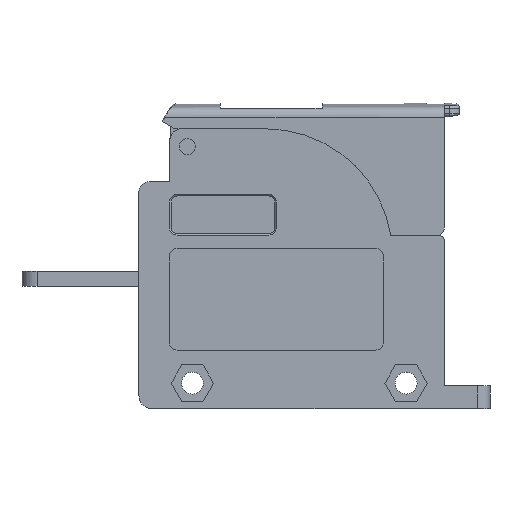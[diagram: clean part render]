
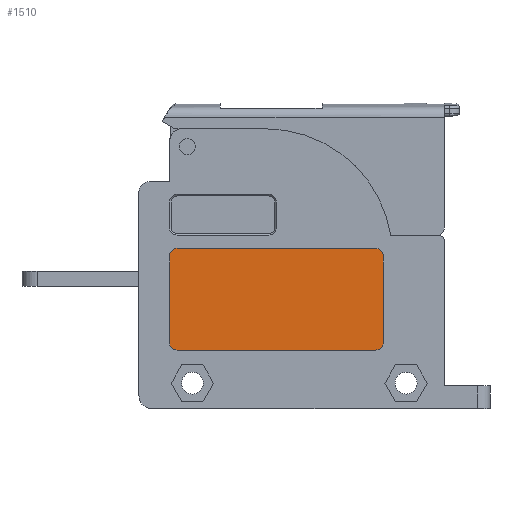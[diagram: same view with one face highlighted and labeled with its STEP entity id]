
A CAD part, left-side view. The second image highlights one B-rep face of the part: STEP entity #1510.
In plain terms, the highlighted planar face has unit normal (-1, 0, 0).
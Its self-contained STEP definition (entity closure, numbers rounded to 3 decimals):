
#170=PLANE('',#4695);
#326=FACE_OUTER_BOUND('',#1861,.T.);
#586=LINE('',#6388,#1063);
#587=LINE('',#6393,#1064);
#588=LINE('',#6397,#1065);
#589=LINE('',#6401,#1066);
#1063=VECTOR('',#5140,1.);
#1064=VECTOR('',#5143,1.);
#1065=VECTOR('',#5146,1.);
#1066=VECTOR('',#5149,1.);
#1510=ADVANCED_FACE('',(#326),#170,.T.);
#1861=EDGE_LOOP('',(#2199,#2200,#2201,#2202,#2203,#2204,#2205,#2206));
#2199=ORIENTED_EDGE('',*,*,#3949,.T.);
#2200=ORIENTED_EDGE('',*,*,#3950,.T.);
#2201=ORIENTED_EDGE('',*,*,#3951,.T.);
#2202=ORIENTED_EDGE('',*,*,#3952,.T.);
#2203=ORIENTED_EDGE('',*,*,#3953,.F.);
#2204=ORIENTED_EDGE('',*,*,#3954,.T.);
#2205=ORIENTED_EDGE('',*,*,#3955,.F.);
#2206=ORIENTED_EDGE('',*,*,#3956,.T.);
#3498=VERTEX_POINT('',#6389);
#3499=VERTEX_POINT('',#6390);
#3500=VERTEX_POINT('',#6392);
#3501=VERTEX_POINT('',#6394);
#3502=VERTEX_POINT('',#6396);
#3503=VERTEX_POINT('',#6398);
#3504=VERTEX_POINT('',#6400);
#3505=VERTEX_POINT('',#6402);
#3949=EDGE_CURVE('',#3498,#3499,#586,.T.);
#3950=EDGE_CURVE('',#3499,#3500,#4549,.T.);
#3951=EDGE_CURVE('',#3500,#3501,#587,.T.);
#3952=EDGE_CURVE('',#3501,#3502,#4550,.T.);
#3953=EDGE_CURVE('',#3503,#3502,#588,.T.);
#3954=EDGE_CURVE('',#3503,#3504,#4551,.T.);
#3955=EDGE_CURVE('',#3505,#3504,#589,.T.);
#3956=EDGE_CURVE('',#3505,#3498,#4552,.T.);
#4549=CIRCLE('',#4691,1.5);
#4550=CIRCLE('',#4692,1.5);
#4551=CIRCLE('',#4693,1.5);
#4552=CIRCLE('',#4694,1.5);
#4691=AXIS2_PLACEMENT_3D('',#6391,#5141,#5142);
#4692=AXIS2_PLACEMENT_3D('',#6395,#5144,#5145);
#4693=AXIS2_PLACEMENT_3D('',#6399,#5147,#5148);
#4694=AXIS2_PLACEMENT_3D('',#6403,#5150,#5151);
#4695=AXIS2_PLACEMENT_3D('',#6404,#5152,#5153);
#5140=DIRECTION('',(0.,1.,0.));
#5141=DIRECTION('',(-1.,0.,0.));
#5142=DIRECTION('',(0.,0.,1.));
#5143=DIRECTION('',(0.,0.,-1.));
#5144=DIRECTION('',(-1.,0.,0.));
#5145=DIRECTION('',(0.,0.,1.));
#5146=DIRECTION('',(0.,1.,0.));
#5147=DIRECTION('',(-1.,0.,0.));
#5148=DIRECTION('',(0.,0.,1.));
#5149=DIRECTION('',(0.,0.,-1.));
#5150=DIRECTION('',(-1.,0.,0.));
#5151=DIRECTION('',(0.,0.,1.));
#5152=DIRECTION('',(-1.,0.,0.));
#5153=DIRECTION('',(0.,0.,1.));
#6388=CARTESIAN_POINT('',(-99.55,19.7,17.05));
#6389=CARTESIAN_POINT('',(-99.55,7.,17.05));
#6390=CARTESIAN_POINT('',(-99.55,46.,17.05));
#6391=CARTESIAN_POINT('',(-99.55,46.,15.55));
#6392=CARTESIAN_POINT('',(-99.55,47.5,15.55));
#6393=CARTESIAN_POINT('',(-99.55,47.5,-3.));
#6394=CARTESIAN_POINT('',(-99.55,47.5,-1.45));
#6395=CARTESIAN_POINT('',(-99.55,46.,-1.45));
#6396=CARTESIAN_POINT('',(-99.55,46.,-2.95));
#6397=CARTESIAN_POINT('',(-99.55,38.,-2.95));
#6398=CARTESIAN_POINT('',(-99.55,7.,-2.95));
#6399=CARTESIAN_POINT('',(-99.55,7.,-1.45));
#6400=CARTESIAN_POINT('',(-99.55,5.5,-1.45));
#6401=CARTESIAN_POINT('',(-99.55,5.5,0.));
#6402=CARTESIAN_POINT('',(-99.55,5.5,15.55));
#6403=CARTESIAN_POINT('',(-99.55,7.,15.55));
#6404=CARTESIAN_POINT('',(-99.55,19.7,-3.));
